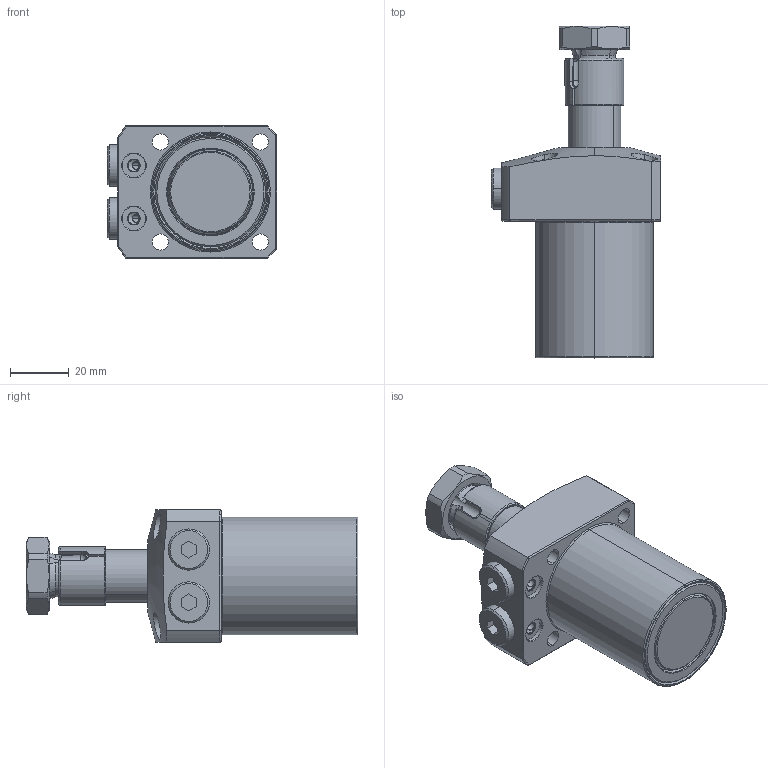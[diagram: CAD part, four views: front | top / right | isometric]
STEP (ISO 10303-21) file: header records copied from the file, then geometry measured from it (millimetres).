
FILE_DESCRIPTION(/* description */ (''),/* implementation_level */ '2;1');
FILE_NAME(/* name */ 'KTRC40-RN45.stp',/* time_stamp */ '2022-11-18T09:43:10+08:00',/* author */ (''),/* organization */ (''),/* preprocessor_version */ 'ST-DEVELOPER v16.7',/* originating_system */ 'SIEMENS PLM Software NX 12.0',/* authorisation */ '');
FILE_SCHEMA (('AP203_CONFIGURATION_CONTROLLED_3D_DESIGN_OF_MECHANICAL_PARTS_AND_ASSEMBLIES_MIM_LF { 1 0 10303 403 2 1 2}'));
Length unit declared in the file: millimetre
Products named in the file (7): KTRC40-RN45-06; KTRC40-RN45-05; KTRC40-RN45-04; KTRC40-RN45-03; KTRC40-RN45-02; KTRC40-RN45-01; LHA0400-CL-Y45_step
Assembly tree (7 placements, depth 2):
  LHA0400-CL-Y45_step
    KTRC40-RN45-01
    KTRC40-RN45-02
    KTRC40-RN45-03
    KTRC40-RN45-04
    KTRC40-RN45-05
    KTRC40-RN45-06  x2
Bounding box: 57.5 x 112.8 x 45 mm (x, y, z)
Volume: 122809.2 mm3; surface area: 26865.8 mm2
Topology: 7 solids, 7 shells, 238 faces, 569 edges, 357 vertices
Faces by surface type: cylinder 81, plane 78, cone 53, torus 24, sphere 2
Entity records: 8039 total; most frequent: CARTESIAN_POINT 1954, DIRECTION 1143, ORIENTED_EDGE 1078, EDGE_CURVE 539, AXIS2_PLACEMENT_3D 471, VERTEX_POINT 339, EDGE_LOOP 252, CIRCLE 238
